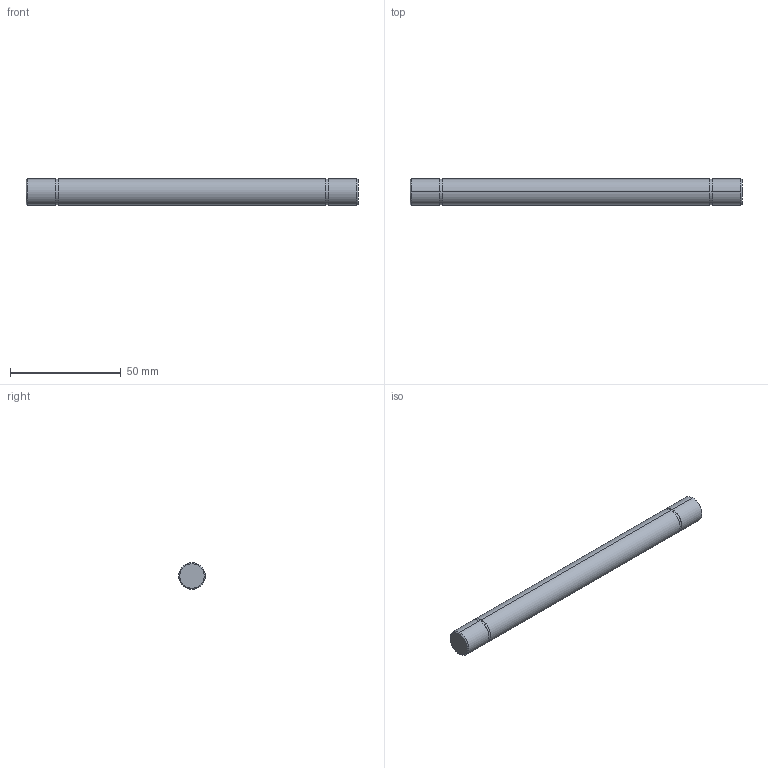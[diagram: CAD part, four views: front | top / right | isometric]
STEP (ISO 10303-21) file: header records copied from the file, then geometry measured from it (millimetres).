
FILE_DESCRIPTION (( 'STEP AP203' ), '1' );
FILE_NAME ('084.801.020.STEP', '2013-01-29T10:40:09', ( 'Alusic' ), ( 'Alusic' ), 'SwSTEP 2.0', 'SolidWorks 2011', '' );
FILE_SCHEMA (( 'CONFIG_CONTROL_DESIGN' ));
Length unit declared in the file: millimetre
Products named in the file (1): 084.801.020
Bounding box: 150 x 12 x 12 mm (x, y, z)
Volume: 16935.1 mm3; surface area: 5891.8 mm2
Topology: 1 solids, 1 shells, 20 faces, 38 edges, 24 vertices
Faces by surface type: cylinder 10, plane 6, cone 4
Entity records: 591 total; most frequent: DIRECTION 104, CARTESIAN_POINT 83, ORIENTED_EDGE 76, AXIS2_PLACEMENT_3D 45, EDGE_CURVE 38, VERTEX_POINT 24, EDGE_LOOP 24, CIRCLE 24
